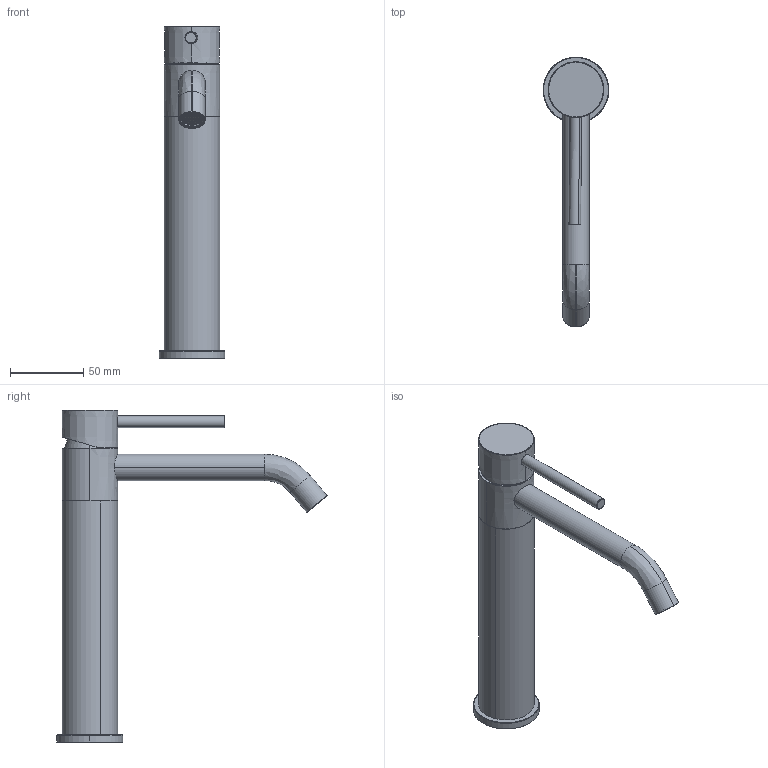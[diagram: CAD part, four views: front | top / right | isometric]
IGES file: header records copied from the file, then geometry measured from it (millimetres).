
Start section: SolidWorks IGES file using analytic representation for surfaces
Global section: file name: \\Sanitexml110\archivi\Fulvio\SolidWorks\PROGETTI\Rubinetteria\Serie INOX\FILE X RENDERING\2021\THIN113.IGS; native system: SolidWorks 2021; preprocessor: SolidWorks 2021; author: cadcam2; date: 211227.110531; units: millimetre
Bounding box: 45 x 184.89 x 227.3 mm (x, y, z)
Surface area: 44773.2 mm2 (no closed solid volume)
Topology: 0 solids, 0 shells, 251 faces, 3161 edges, 3135 vertices
Faces by surface type: revolution 127, bspline 124
